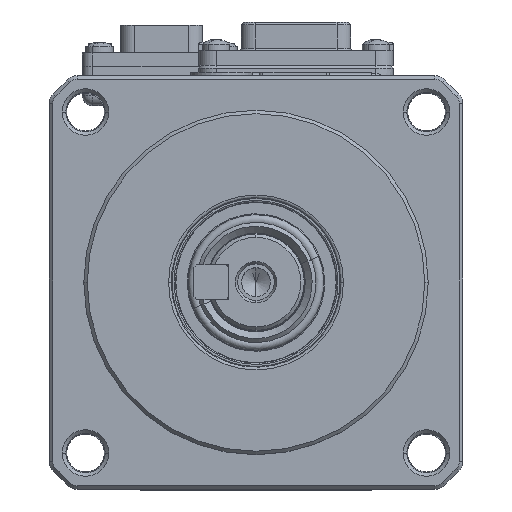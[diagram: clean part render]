
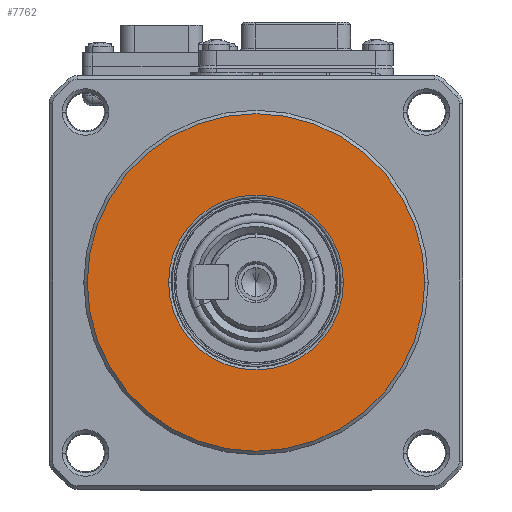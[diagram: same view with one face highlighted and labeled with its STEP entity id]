
A CAD part, top view. The second image highlights one B-rep face of the part: STEP entity #7762.
In plain terms, the highlighted planar face has unit normal (0, 0, 1).
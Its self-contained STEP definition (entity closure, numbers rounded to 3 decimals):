
#39 = FACE_OUTER_BOUND ( 'NONE', #17940, .T. ) ;
#2233 = CARTESIAN_POINT ( 'NONE',  ( 0., 0., 0. ) ) ;
#2510 = VERTEX_POINT ( 'NONE', #43255 ) ;
#4022 = ORIENTED_EDGE ( 'NONE', *, *, #65290, .T. ) ;
#4033 = CARTESIAN_POINT ( 'NONE',  ( 0., 0., 0. ) ) ;
#5811 = CARTESIAN_POINT ( 'NONE',  ( 12.691, 0., 0. ) ) ;
#7762 = ADVANCED_FACE ( 'NONE', ( #98635, #39 ), #61122, .F. ) ;
#8929 = AXIS2_PLACEMENT_3D ( 'NONE', #29075, #75168, #37559 ) ;
#11971 = CIRCLE ( 'NONE', #90326, 12.691 ) ;
#13334 = ORIENTED_EDGE ( 'NONE', *, *, #34270, .T. ) ;
#14246 = VERTEX_POINT ( 'NONE', #5811 ) ;
#15288 = EDGE_CURVE ( 'NONE', #14246, #67892, #55146, .T. ) ;
#17940 = EDGE_LOOP ( 'NONE', ( #71388, #13334 ) ) ;
#22422 = EDGE_CURVE ( 'NONE', #2510, #64648, #79274, .T. ) ;
#29075 = CARTESIAN_POINT ( 'NONE',  ( 0., 0., 0. ) ) ;
#32354 = CARTESIAN_POINT ( 'NONE',  ( 24.5, 0., 0. ) ) ;
#34270 = EDGE_CURVE ( 'NONE', #64648, #2510, #83611, .T. ) ;
#34542 = DIRECTION ( 'NONE',  ( 0., 0., -1. ) ) ;
#37559 = DIRECTION ( 'NONE',  ( 1., 0., 0. ) ) ;
#40397 = AXIS2_PLACEMENT_3D ( 'NONE', #76512, #92504, #75499 ) ;
#40761 = DIRECTION ( 'NONE',  ( -1., 0., 0. ) ) ;
#43255 = CARTESIAN_POINT ( 'NONE',  ( -24.5, 0., 0. ) ) ;
#47459 = ORIENTED_EDGE ( 'NONE', *, *, #15288, .T. ) ;
#48252 = DIRECTION ( 'NONE',  ( 0., 0., -1. ) ) ;
#53465 = AXIS2_PLACEMENT_3D ( 'NONE', #61620, #93085, #78105 ) ;
#55146 = CIRCLE ( 'NONE', #90307, 12.691 ) ;
#61122 = PLANE ( 'NONE',  #53465 ) ;
#61620 = CARTESIAN_POINT ( 'NONE',  ( 0., 12.2, 0. ) ) ;
#64648 = VERTEX_POINT ( 'NONE', #32354 ) ;
#65290 = EDGE_CURVE ( 'NONE', #67892, #14246, #11971, .T. ) ;
#67892 = VERTEX_POINT ( 'NONE', #76671 ) ;
#71388 = ORIENTED_EDGE ( 'NONE', *, *, #22422, .T. ) ;
#72373 = EDGE_LOOP ( 'NONE', ( #4022, #47459 ) ) ;
#75168 = DIRECTION ( 'NONE',  ( 0., 0., 1. ) ) ;
#75499 = DIRECTION ( 'NONE',  ( 1., 0., 0. ) ) ;
#75529 = DIRECTION ( 'NONE',  ( -1., 0., 0. ) ) ;
#76512 = CARTESIAN_POINT ( 'NONE',  ( 0., 0., 0. ) ) ;
#76671 = CARTESIAN_POINT ( 'NONE',  ( -12.691, 0., 0. ) ) ;
#78105 = DIRECTION ( 'NONE',  ( -1., 0., 0. ) ) ;
#79274 = CIRCLE ( 'NONE', #8929, 24.5 ) ;
#83611 = CIRCLE ( 'NONE', #40397, 24.5 ) ;
#90307 = AXIS2_PLACEMENT_3D ( 'NONE', #4033, #34542, #75529 ) ;
#90326 = AXIS2_PLACEMENT_3D ( 'NONE', #2233, #48252, #40761 ) ;
#92504 = DIRECTION ( 'NONE',  ( 0., 0., 1. ) ) ;
#93085 = DIRECTION ( 'NONE',  ( 0., 0., -1. ) ) ;
#98635 = FACE_BOUND ( 'NONE', #72373, .T. ) ;
